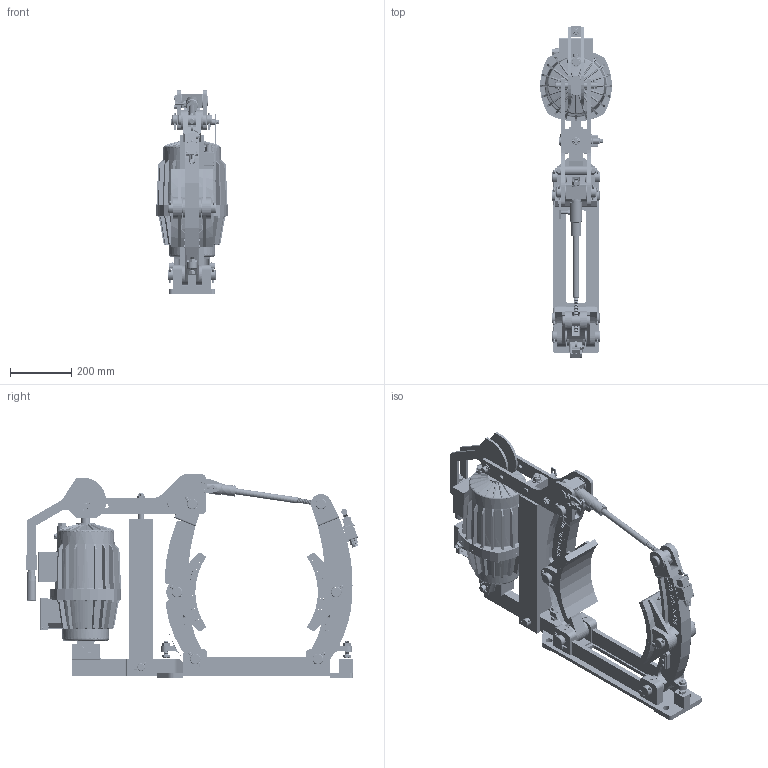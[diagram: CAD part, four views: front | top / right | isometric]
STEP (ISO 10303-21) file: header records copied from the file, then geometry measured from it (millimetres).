
FILE_DESCRIPTION((''),'2;1');
FILE_NAME('4459_404_504_E00002','2018-01-26T',('VORO'),(''),'CREO PARAMETRIC BY PTC INC, 2017170','CREO PARAMETRIC BY PTC INC, 2017170','');
FILE_SCHEMA(('CONFIG_CONTROL_DESIGN'));
Products named in the file (1): 4459_404_504_E00002
Bounding box: 234 x 1083.31 x 664.5 mm (x, y, z)
Surface area: 3095066.9 mm2 (no closed solid volume)
Topology: 0 solids, 5024 shells, 5557 faces, 35001 edges, 33901 vertices
Faces by surface type: plane 2667, cylinder 1972, cone 677, torus 225, bspline 16
Entity records: 578772 total; most frequent: CARTESIAN_POINT 163718, PRESENTATION_STYLE_ASSIGNMENT 45573, STYLED_ITEM 40016, DIRECTION 39887, ORIENTED_EDGE 36096, CURVE_STYLE 34994, EDGE_CURVE 34994, VERTEX_POINT 33900
